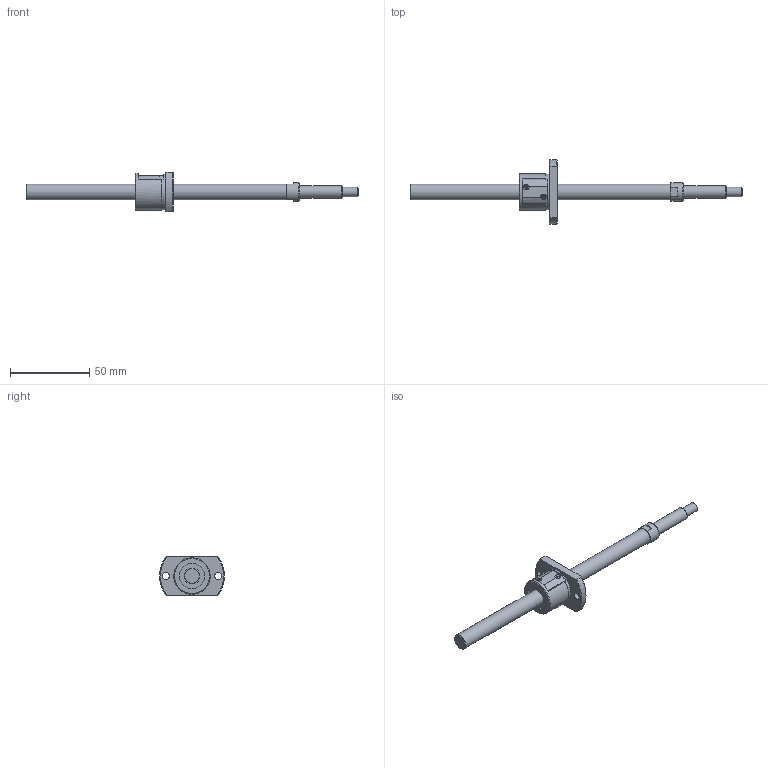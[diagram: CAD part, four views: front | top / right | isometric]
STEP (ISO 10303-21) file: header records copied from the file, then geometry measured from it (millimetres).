
FILE_DESCRIPTION( ( 'STEP AP214' ), '1' );
FILE_NAME( 'p:/temp/worker_8/1096_1344/app_82_12015063014121750719039260eae72_00_00_00_000/STEP/SG1002-161R210C3A1X_69__2_14.stp', ' ', ( ' ' ), ( ' ' ), 'PSStep 15.0.47', 'PARTsolutions', ' ' );
FILE_SCHEMA( ( 'AUTOMOTIVE_DESIGN { 1 0 10303 214 1 1 1 1 }' ) );
Length unit declared in the file: millimetre
Products named in the file (3): SG1002-161R210C3A1X(69); _SG1002-161R210C3A_shaft; _SG1002_nut
Assembly tree (2 placements, depth 2):
  SG1002-161R210C3A1X(69)
    _SG1002-161R210C3A_shaft
    _SG1002_nut
Bounding box: 210 x 41 x 25 mm (x, y, z)
Volume: 25530 mm3; surface area: 11112.7 mm2
Topology: 2 solids, 2 shells, 72 faces, 177 edges, 116 vertices
Faces by surface type: plane 35, cylinder 23, cone 13, torus 1
Full cylindrical faces by diameter (mm): 4.5 x2, 6 x1, 8 x1, 10 x2, 11.5 x1, 16 x2, 22.6 x1, 23 x1
Entity records: 2634 total; most frequent: CARTESIAN_POINT 409, DIRECTION 346, ORIENTED_EDGE 292, EDGE_CURVE 146, AXIS2_PLACEMENT_3D 143, EDGE_LOOP 106, VERTEX_POINT 106, FACE_OUTER_BOUND 84
